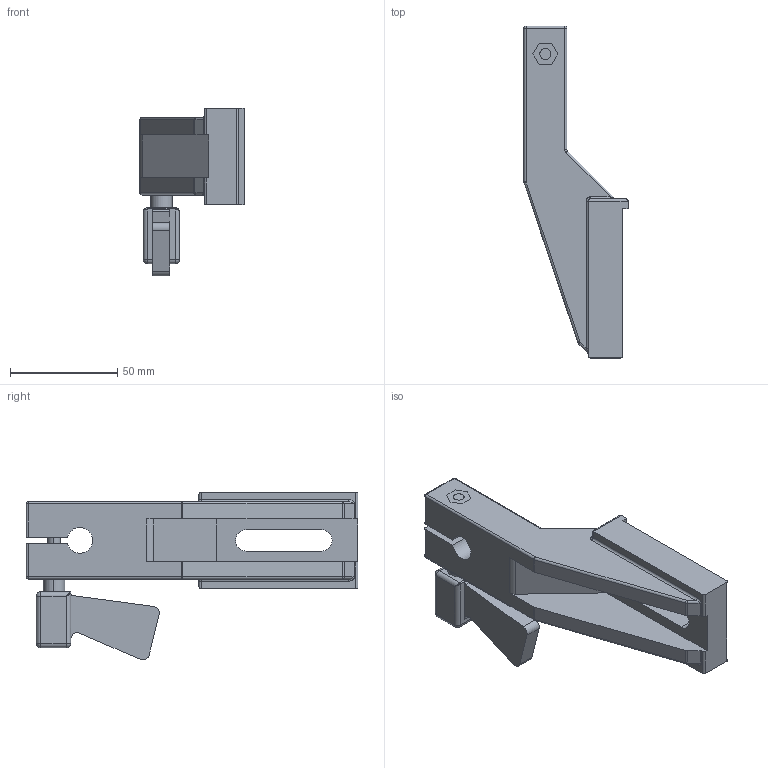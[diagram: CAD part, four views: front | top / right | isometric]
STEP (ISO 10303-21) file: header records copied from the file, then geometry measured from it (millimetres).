
FILE_DESCRIPTION (( 'STEP AP214' ), '1' );
FILE_NAME ('GH5 4.step', '2017-04-05T07:49:15', ( '' ), ( '' ), 'SwSTEP 2.0', 'SolidWorks 2015', '' );
FILE_SCHEMA (( 'AUTOMOTIVE_DESIGN' ));
Length unit declared in the file: millimetre
Products named in the file (1): GH5 4
Bounding box: 48.56 x 154.5 x 78.18 mm (x, y, z)
Volume: 135495.5 mm3; surface area: 32986.3 mm2
Topology: 4 solids, 4 shells, 144 faces, 347 edges, 206 vertices
Faces by surface type: cylinder 65, plane 55, sphere 10, torus 8, bspline 6
Entity records: 4286 total; most frequent: CARTESIAN_POINT 908, DIRECTION 725, ORIENTED_EDGE 670, EDGE_CURVE 335, AXIS2_PLACEMENT_3D 267, VERTEX_POINT 206, VECTOR 191, LINE 191
